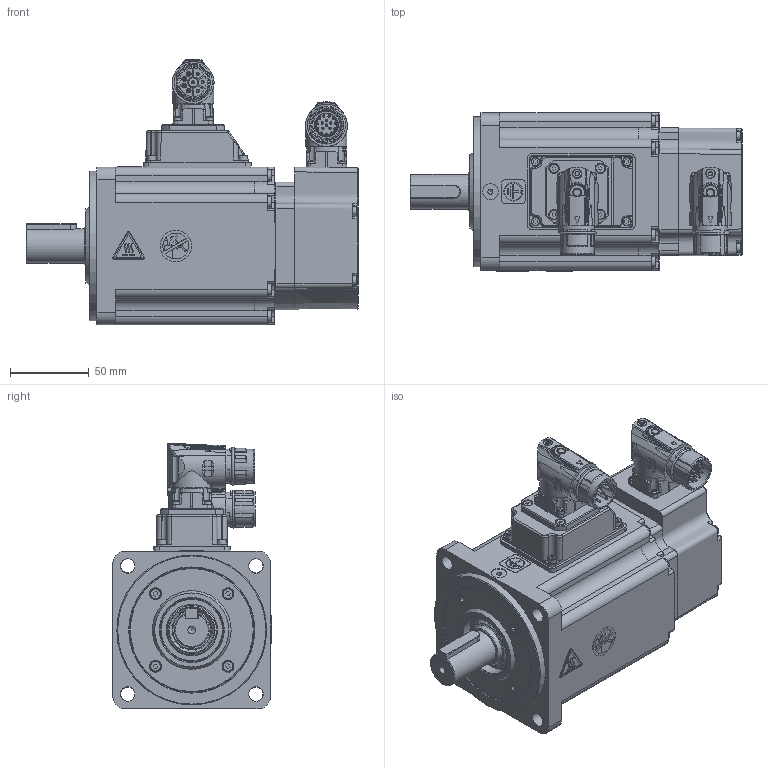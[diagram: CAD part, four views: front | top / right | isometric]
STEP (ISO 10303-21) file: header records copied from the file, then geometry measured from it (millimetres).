
FILE_DESCRIPTION( ( 'Unknown' ), '1' );
FILE_NAME( 'U:/05_Progetto TCE/010-TCE motor drawings/TCE100/vuoti/TCE100 4A XX 3 A1 0 C2.stp', 'Unknown', ( 'Unknown' ), ( 'Unknown' ), 'PSStep 17.0.49', 'Unknown', ' ' );
FILE_SCHEMA( ( 'AUTOMOTIVE_DESIGN { 1 0 10303 214 1 1 1 1 }' ) );
Length unit declared in the file: millimetre
Products named in the file (15): 005911000430
Bounding box: 210.5 x 100.3 x 168.5 mm (x, y, z)
Volume: 679424.6 mm3; surface area: 247593.7 mm2
Topology: 15 solids, 92 shells, 2971 faces, 7406 edges, 4781 vertices
Faces by surface type: plane 1453, cylinder 731, cone 281, bspline 194, torus 163, sphere 111, extrusion 38
Full cylindrical faces by diameter (mm): 0.5 x1, 1 x21, 1.2 x17, 1.4 x4, 2 x4, 2.013 x4, 2.2 x2, 2.459 x23, 2.5 x8, 2.6 x4, 2.8 x4, 3 x29, 3.2 x1, 3.242 x36, 3.5 x8, 4 x21, 4.4 x4, 4.5 x18, 4.7 x4, 4.917 x1, 5.5 x12, 5.8 x1, 5.9 x2, 6.8 x1, 7 x16, 7.5 x4, 8 x3, 10 x1, 11 x1, 12 x2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
Entity records: 118481 total; most frequent: CARTESIAN_POINT 30204, DIRECTION 13278, ORIENTED_EDGE 12822, EDGE_CURVE 6411, AXIS2_PLACEMENT_3D 4963, VERTEX_POINT 4534, EDGE_LOOP 3919, FACE_OUTER_BOUND 3415
